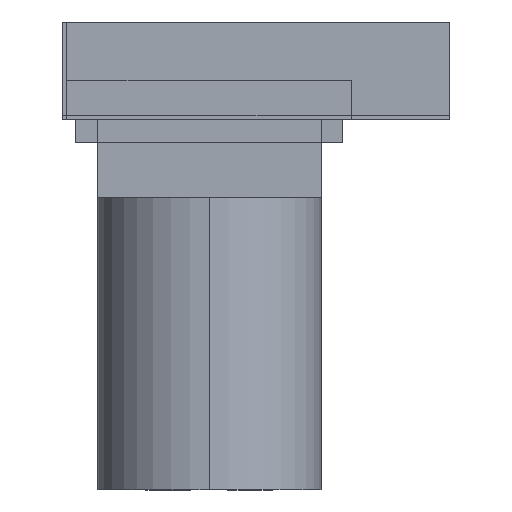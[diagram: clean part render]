
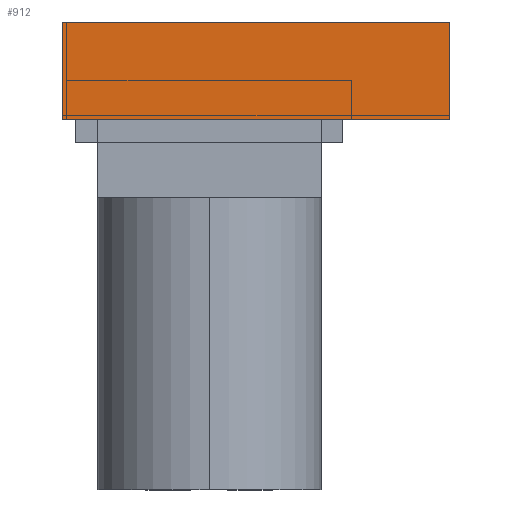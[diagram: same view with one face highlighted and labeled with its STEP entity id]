
A CAD part, left-side view. The second image highlights one B-rep face of the part: STEP entity #912.
In plain terms, the highlighted planar face has unit normal (-1, 0, 0).
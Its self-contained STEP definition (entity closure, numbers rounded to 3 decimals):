
#86=FACE_OUTER_BOUND('',#145,.T.);
#145=EDGE_LOOP('',(#770,#771,#772,#773));
#249=LINE('',#1462,#362);
#251=LINE('',#1466,#364);
#252=LINE('',#1468,#365);
#253=LINE('',#1469,#366);
#362=VECTOR('',#1209,304.8);
#364=VECTOR('',#1213,304.8);
#365=VECTOR('',#1214,304.8);
#366=VECTOR('',#1215,304.8);
#447=VERTEX_POINT('',#1459);
#448=VERTEX_POINT('',#1461);
#449=VERTEX_POINT('',#1465);
#450=VERTEX_POINT('',#1467);
#557=EDGE_CURVE('',#448,#447,#249,.T.);
#559=EDGE_CURVE('',#449,#447,#251,.T.);
#560=EDGE_CURVE('',#450,#449,#252,.T.);
#561=EDGE_CURVE('',#448,#450,#253,.T.);
#770=ORIENTED_EDGE('',*,*,#559,.F.);
#771=ORIENTED_EDGE('',*,*,#560,.F.);
#772=ORIENTED_EDGE('',*,*,#561,.F.);
#773=ORIENTED_EDGE('',*,*,#557,.T.);
#855=PLANE('',#1001);
#912=ADVANCED_FACE('',(#86),#855,.T.);
#1001=AXIS2_PLACEMENT_3D('',#1464,#1211,#1212);
#1209=DIRECTION('',(0.,0.,1.));
#1211=DIRECTION('center_axis',(-1.,0.,0.));
#1212=DIRECTION('ref_axis',(0.,0.,-1.));
#1213=DIRECTION('',(0.,-1.,0.));
#1214=DIRECTION('',(0.,0.,1.));
#1215=DIRECTION('',(0.,1.,0.));
#1459=CARTESIAN_POINT('',(-500.,-123.,30.));
#1461=CARTESIAN_POINT('',(-500.,-123.,-20.));
#1462=CARTESIAN_POINT('',(-500.,-123.,-20.));
#1464=CARTESIAN_POINT('Origin',(-500.,75.,30.));
#1465=CARTESIAN_POINT('',(-500.,75.,30.));
#1466=CARTESIAN_POINT('',(-500.,75.,30.));
#1467=CARTESIAN_POINT('',(-500.,75.,-20.));
#1468=CARTESIAN_POINT('',(-500.,75.,-20.));
#1469=CARTESIAN_POINT('',(-500.,-123.,-20.));
